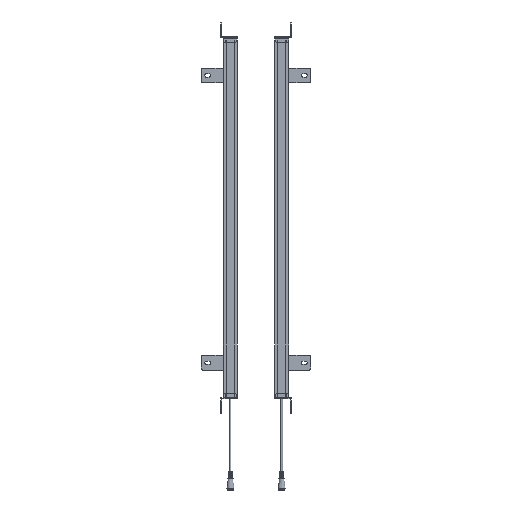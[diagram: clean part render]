
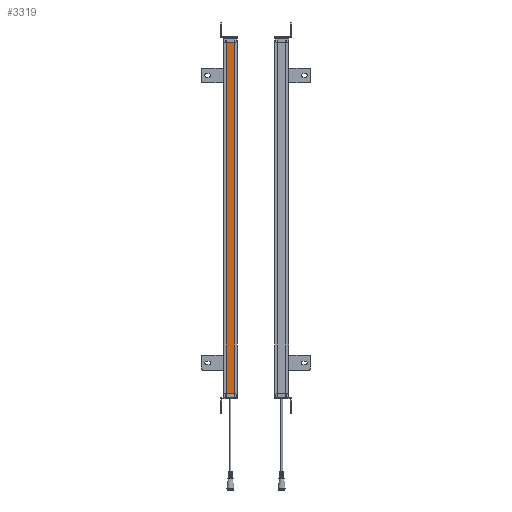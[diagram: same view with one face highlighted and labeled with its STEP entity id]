
A CAD part, left-side view. The second image highlights one B-rep face of the part: STEP entity #3319.
In plain terms, the highlighted planar face has unit normal (-1, 0, 0).
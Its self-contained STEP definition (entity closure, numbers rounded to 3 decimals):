
#1795=FACE_OUTER_BOUND('',#5986,.T.);
#3319=ADVANCED_FACE('',(#1795),#4749,.T.);
#4749=PLANE('',#29857);
#5986=EDGE_LOOP('',(#9184,#9185,#9186,#9187));
#9184=ORIENTED_EDGE('',*,*,#19383,.F.);
#9185=ORIENTED_EDGE('',*,*,#19072,.T.);
#9186=ORIENTED_EDGE('',*,*,#19385,.T.);
#9187=ORIENTED_EDGE('',*,*,#19386,.F.);
#16145=VERTEX_POINT('',#43699);
#16146=VERTEX_POINT('',#43701);
#16357=VERTEX_POINT('',#44323);
#16358=VERTEX_POINT('',#44327);
#19072=EDGE_CURVE('',#16146,#16145,#24663,.T.);
#19383=EDGE_CURVE('',#16146,#16357,#24884,.T.);
#19385=EDGE_CURVE('',#16145,#16358,#24886,.T.);
#19386=EDGE_CURVE('',#16357,#16358,#24887,.T.);
#24663=LINE('',#43700,#27142);
#24884=LINE('',#44322,#27363);
#24886=LINE('',#44326,#27365);
#24887=LINE('',#44328,#27366);
#27142=VECTOR('',#33404,1.);
#27363=VECTOR('',#34005,1.);
#27365=VECTOR('',#34009,1.);
#27366=VECTOR('',#34010,1.);
#29857=AXIS2_PLACEMENT_3D('',#44329,#34011,#34012);
#33404=DIRECTION('',(0.,1.,0.));
#34005=DIRECTION('',(0.,0.,-1.));
#34009=DIRECTION('',(0.,0.,-1.));
#34010=DIRECTION('',(0.,1.,0.));
#34011=DIRECTION('',(-1.,0.,0.));
#34012=DIRECTION('',(0.,-1.,0.));
#43699=CARTESIAN_POINT('',(50.4,-5.5,678.059));
#43700=CARTESIAN_POINT('',(50.4,-5.5,678.059));
#43701=CARTESIAN_POINT('',(50.4,-23.5,678.059));
#44322=CARTESIAN_POINT('',(50.4,-23.5,103.059));
#44323=CARTESIAN_POINT('',(50.4,-23.5,-41.941));
#44326=CARTESIAN_POINT('',(50.4,-5.5,103.059));
#44327=CARTESIAN_POINT('',(50.4,-5.5,-41.941));
#44328=CARTESIAN_POINT('',(50.4,-23.5,-41.941));
#44329=CARTESIAN_POINT('',(50.4,-5.5,-61.941));
